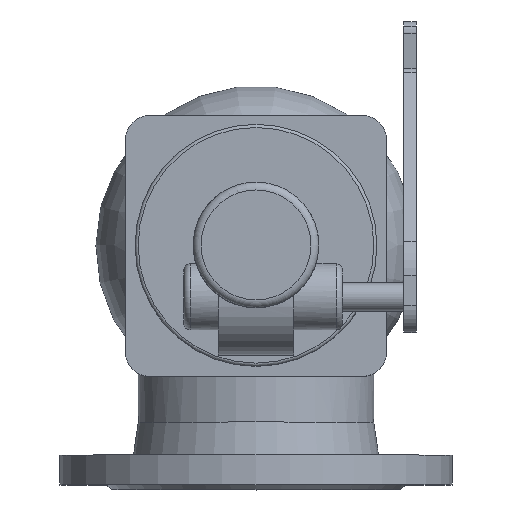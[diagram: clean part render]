
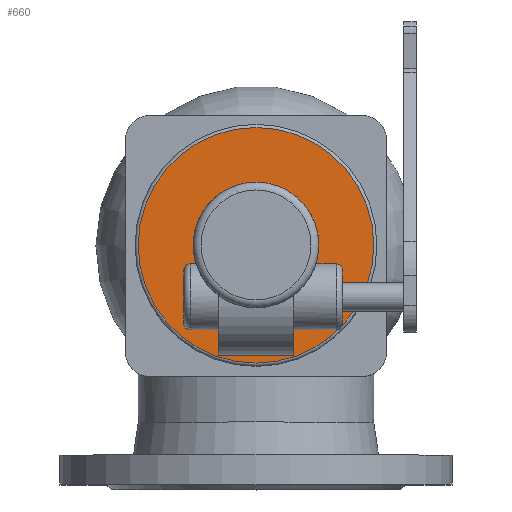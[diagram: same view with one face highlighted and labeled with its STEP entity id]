
A CAD part, top view. The second image highlights one B-rep face of the part: STEP entity #660.
In plain terms, the highlighted planar face has unit normal (0, 0, 1).
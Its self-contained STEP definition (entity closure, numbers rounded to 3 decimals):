
#660=ADVANCED_FACE('',(#1891,#1893),#1895,.T.);
#1891=FACE_BOUND('',#1892,.T.);
#1892=EDGE_LOOP('',(#2960,#2961));
#1893=FACE_BOUND('',#1894,.T.);
#1894=EDGE_LOOP('',(#2962,#2963,#2964,#2965,#2966));
#1895=PLANE('',#1896);
#1896=AXIS2_PLACEMENT_3D('',#1897,#1898,#1899);
#1897=CARTESIAN_POINT('',(0.,0.,507.));
#1898=DIRECTION('',(0.,0.,1.));
#1899=DIRECTION('',(0.,-1.,0.));
#2960=ORIENTED_EDGE('',*,*,#3458,.T.);
#2961=ORIENTED_EDGE('',*,*,#3459,.T.);
#2962=ORIENTED_EDGE('',*,*,#3481,.F.);
#2963=ORIENTED_EDGE('',*,*,#3482,.F.);
#2964=ORIENTED_EDGE('',*,*,#3483,.F.);
#2965=ORIENTED_EDGE('',*,*,#3484,.F.);
#2966=ORIENTED_EDGE('',*,*,#3485,.F.);
#3458=EDGE_CURVE('',#3916,#3917,#3918,.T.);
#3459=EDGE_CURVE('',#3917,#3916,#3919,.T.);
#3481=EDGE_CURVE('',#3958,#3959,#3960,.T.);
#3482=EDGE_CURVE('',#3961,#3958,#3962,.F.);
#3483=EDGE_CURVE('',#3963,#3961,#3964,.T.);
#3484=EDGE_CURVE('',#3965,#3963,#3966,.T.);
#3485=EDGE_CURVE('',#3959,#3965,#3967,.T.);
#3916=VERTEX_POINT('',#5800);
#3917=VERTEX_POINT('',#5801);
#3918=CIRCLE('',#5802,75.);
#3919=CIRCLE('',#5806,75.);
#3958=VERTEX_POINT('',#5902);
#3959=VERTEX_POINT('',#5903);
#3960=LINE('',#5904,#5905);
#3961=VERTEX_POINT('',#5907);
#3962=LINE('',#5908,#5909);
#3963=VERTEX_POINT('',#5911);
#3964=CIRCLE('',#5912,40.);
#3965=VERTEX_POINT('',#5916);
#3966=CIRCLE('',#5917,40.);
#3967=LINE('',#5921,#5922);
#5800=CARTESIAN_POINT('',(0.,-75.,507.));
#5801=CARTESIAN_POINT('',(0.,75.,507.));
#5802=AXIS2_PLACEMENT_3D('',#5803,#5804,#5805);
#5803=CARTESIAN_POINT('',(0.,0.,507.));
#5804=DIRECTION('',(0.,0.,1.));
#5805=DIRECTION('',(0.,-1.,0.));
#5806=AXIS2_PLACEMENT_3D('',#5807,#5808,#5809);
#5807=CARTESIAN_POINT('',(0.,0.,507.));
#5808=DIRECTION('',(0.,0.,1.));
#5809=DIRECTION('',(0.,1.,0.));
#5902=CARTESIAN_POINT('',(-6.,-63.34,507.));
#5903=CARTESIAN_POINT('',(6.,-63.34,507.));
#5904=CARTESIAN_POINT('',(-6.,-63.34,507.));
#5905=VECTOR('',#5906,1.);
#5906=DIRECTION('',(1.,0.,0.));
#5907=CARTESIAN_POINT('',(-6.,-39.547,507.));
#5908=CARTESIAN_POINT('',(-6.,-63.34,507.));
#5909=VECTOR('',#5910,1.);
#5910=DIRECTION('',(0.,1.,0.));
#5911=CARTESIAN_POINT('',(-23.664,32.249,507.));
#5912=AXIS2_PLACEMENT_3D('',#5913,#5914,#5915);
#5913=CARTESIAN_POINT('',(0.,0.,507.));
#5914=DIRECTION('',(0.,0.,1.));
#5915=DIRECTION('',(-0.592,0.806,0.));
#5916=CARTESIAN_POINT('',(6.,-39.547,507.));
#5917=AXIS2_PLACEMENT_3D('',#5918,#5919,#5920);
#5918=CARTESIAN_POINT('',(0.,0.,507.));
#5919=DIRECTION('',(0.,0.,1.));
#5920=DIRECTION('',(0.15,-0.989,0.));
#5921=CARTESIAN_POINT('',(6.,-63.34,507.));
#5922=VECTOR('',#5923,1.);
#5923=DIRECTION('',(0.,1.,0.));
